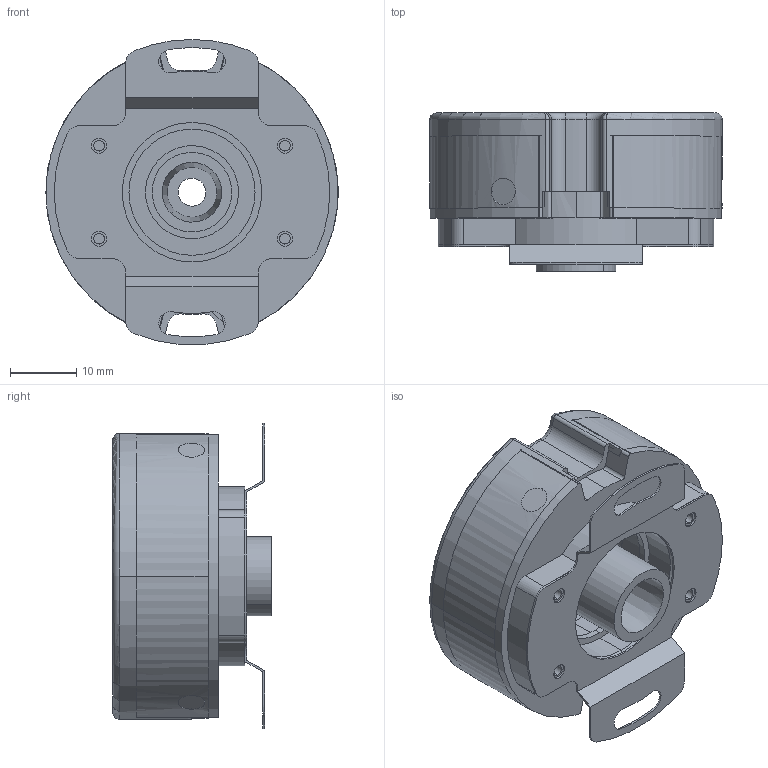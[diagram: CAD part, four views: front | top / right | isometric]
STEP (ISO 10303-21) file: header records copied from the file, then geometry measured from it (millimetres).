
FILE_DESCRIPTION (( 'STEP AP214' ), '1' );
FILE_NAME ('4844_1000_ASM_2_ASM_1_ASM_1_ASM(2)^4844_1000_ASM_2_ASM_1_ASM_1_ASM(2).STEP', '2023-12-25T08:43:03', ( '' ), ( '' ), 'SwSTEP 2.0', 'SolidWorks 2021', '' );
FILE_SCHEMA (( 'AUTOMOTIVE_DESIGN' ));
Length unit declared in the file: millimetre
Products named in the file (6): MM4409-202C-__________-A0^4844_1000_ASM_2_ASM_1_ASM_1_ASM(2)_4844_1000_ASM_2_ASM_1_ASM_1_ASM(2); ^4844_1000_ASM_2_ASM_1_ASM_1_ASM(2)_4844_1000_ASM_2_ASM_1_ASM_1_ASM(2); 4844_1000_ASM_2_ASM_1_ASM_1_ASM(2)^4844_1000_ASM_2_ASM_1_ASM_1_ASM(2); ^_4844_1000_ASM_2_ASM_1_ASM_1_ASM(2)_4844_1000_ASM_2_ASM_1_ASM_1_ASM(2); 葩璃 (2) ^_4844_1000_ASM_2_ASM_1_ASM_1_ASM(2)_4844_1000_ASM_2_ASM_1_ASM_1_ASM(2); 葩璃 (3) ^_4844_1000_ASM_2_ASM_1_ASM_1_ASM(2)_4844_1000_ASM_2_ASM_1_ASM_1_ASM(2)
Assembly tree (5 placements, depth 3):
  4844_1000_ASM_2_ASM_1_ASM_1_ASM(2)^4844_1000_ASM_2_ASM_1_ASM_1_ASM(2)
    ^4844_1000_ASM_2_ASM_1_ASM_1_ASM(2)_4844_1000_ASM_2_ASM_1_ASM_1_ASM(2)
      ^_4844_1000_ASM_2_ASM_1_ASM_1_ASM(2)_4844_1000_ASM_2_ASM_1_ASM_1_ASM(2)
      葩璃 (2) ^_4844_1000_ASM_2_ASM_1_ASM_1_ASM(2)_4844_1000_ASM_2_ASM_1_ASM_1_ASM(2)
      葩璃 (3) ^_4844_1000_ASM_2_ASM_1_ASM_1_ASM(2)_4844_1000_ASM_2_ASM_1_ASM_1_ASM(2)
    MM4409-202C-__________-A0^4844_1000_ASM_2_ASM_1_ASM_1_ASM(2)_4844_1000_ASM_2_ASM_1_ASM_1_ASM(2)
Bounding box: 44 x 23.85 x 45.93 mm (x, y, z)
Volume: 20831.1 mm3; surface area: 16055.8 mm2
Topology: 4 solids, 12 shells, 362 faces, 916 edges, 569 vertices
Faces by surface type: cylinder 178, plane 99, cone 32, bspline 27, torus 21, sphere 5
Entity records: 13745 total; most frequent: CARTESIAN_POINT 4376, DIRECTION 1898, ORIENTED_EDGE 1782, EDGE_CURVE 891, AXIS2_PLACEMENT_3D 741, VERTEX_POINT 569, LINE 416, VECTOR 416
